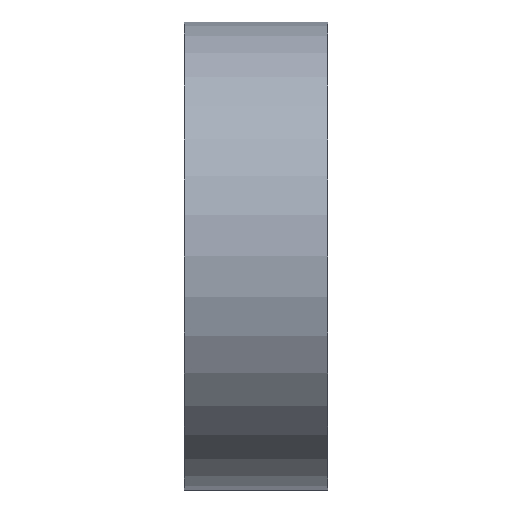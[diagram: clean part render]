
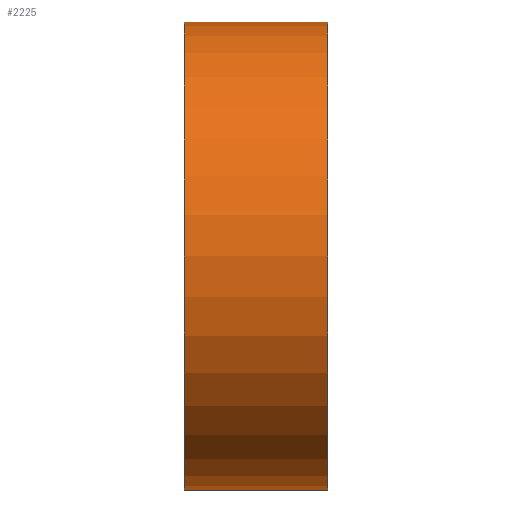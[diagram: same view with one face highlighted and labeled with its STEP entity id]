
A CAD part, front view. The second image highlights one B-rep face of the part: STEP entity #2225.
In plain terms, the highlighted cylindrical face has radius 17 mm (diameter 34 mm), a full revolution.
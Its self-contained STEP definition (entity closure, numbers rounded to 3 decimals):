
#164 = CARTESIAN_POINT ( 'NONE',  ( 0., 0., -17. ) ) ;
#411 = EDGE_CURVE ( 'NONE', #3641, #3641, #1499, .T. ) ;
#540 = ORIENTED_EDGE ( 'NONE', *, *, #411, .T. ) ;
#582 = FACE_OUTER_BOUND ( 'NONE', #2720, .T. ) ;
#822 = DIRECTION ( 'NONE',  ( -1., 0., 0. ) ) ;
#850 = CARTESIAN_POINT ( 'NONE',  ( 10.4, 0., 0. ) ) ;
#870 = DIRECTION ( 'NONE',  ( 0., 0., 1. ) ) ;
#945 = AXIS2_PLACEMENT_3D ( 'NONE', #850, #822, #870 ) ;
#1187 = CIRCLE ( 'NONE', #3713, 17. ) ;
#1443 = FACE_OUTER_BOUND ( 'NONE', #2612, .T. ) ;
#1499 = CIRCLE ( 'NONE', #2775, 17. ) ;
#2138 = ORIENTED_EDGE ( 'NONE', *, *, #2141, .F. ) ;
#2141 = EDGE_CURVE ( 'NONE', #3534, #3534, #1187, .T. ) ;
#2225 = ADVANCED_FACE ( 'NONE', ( #1443, #582 ), #3104, .T. ) ;
#2612 = EDGE_LOOP ( 'NONE', ( #2138 ) ) ;
#2720 = EDGE_LOOP ( 'NONE', ( #540 ) ) ;
#2775 = AXIS2_PLACEMENT_3D ( 'NONE', #3249, #2919, #3620 ) ;
#2919 = DIRECTION ( 'NONE',  ( 1., 0., 0. ) ) ;
#3104 = CYLINDRICAL_SURFACE ( 'NONE', #945, 17. ) ;
#3142 = CARTESIAN_POINT ( 'NONE',  ( 10.4, 0., -17. ) ) ;
#3249 = CARTESIAN_POINT ( 'NONE',  ( 0., 0., 0. ) ) ;
#3472 = CARTESIAN_POINT ( 'NONE',  ( 10.4, 0., 0. ) ) ;
#3534 = VERTEX_POINT ( 'NONE', #3142 ) ;
#3620 = DIRECTION ( 'NONE',  ( 0., 0., -1. ) ) ;
#3641 = VERTEX_POINT ( 'NONE', #164 ) ;
#3713 = AXIS2_PLACEMENT_3D ( 'NONE', #3472, #3793, #3809 ) ;
#3793 = DIRECTION ( 'NONE',  ( 1., 0., 0. ) ) ;
#3809 = DIRECTION ( 'NONE',  ( 0., 0., -1. ) ) ;
